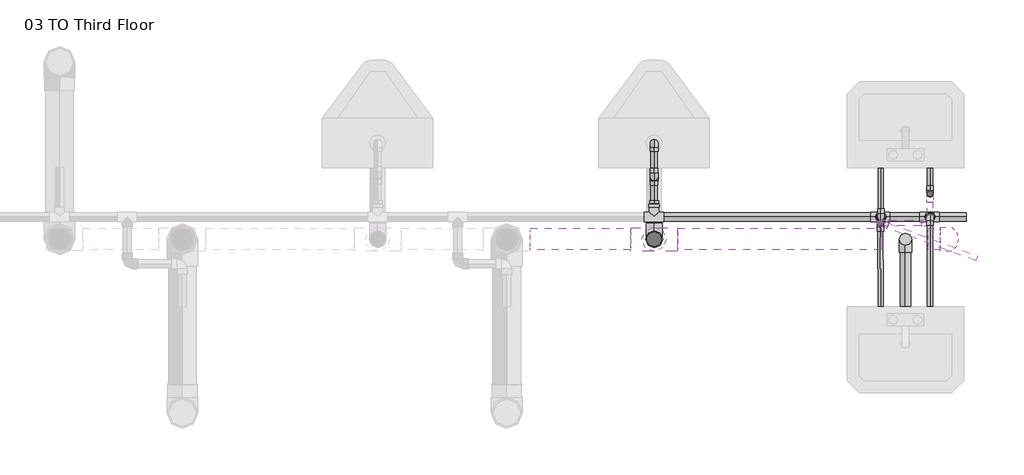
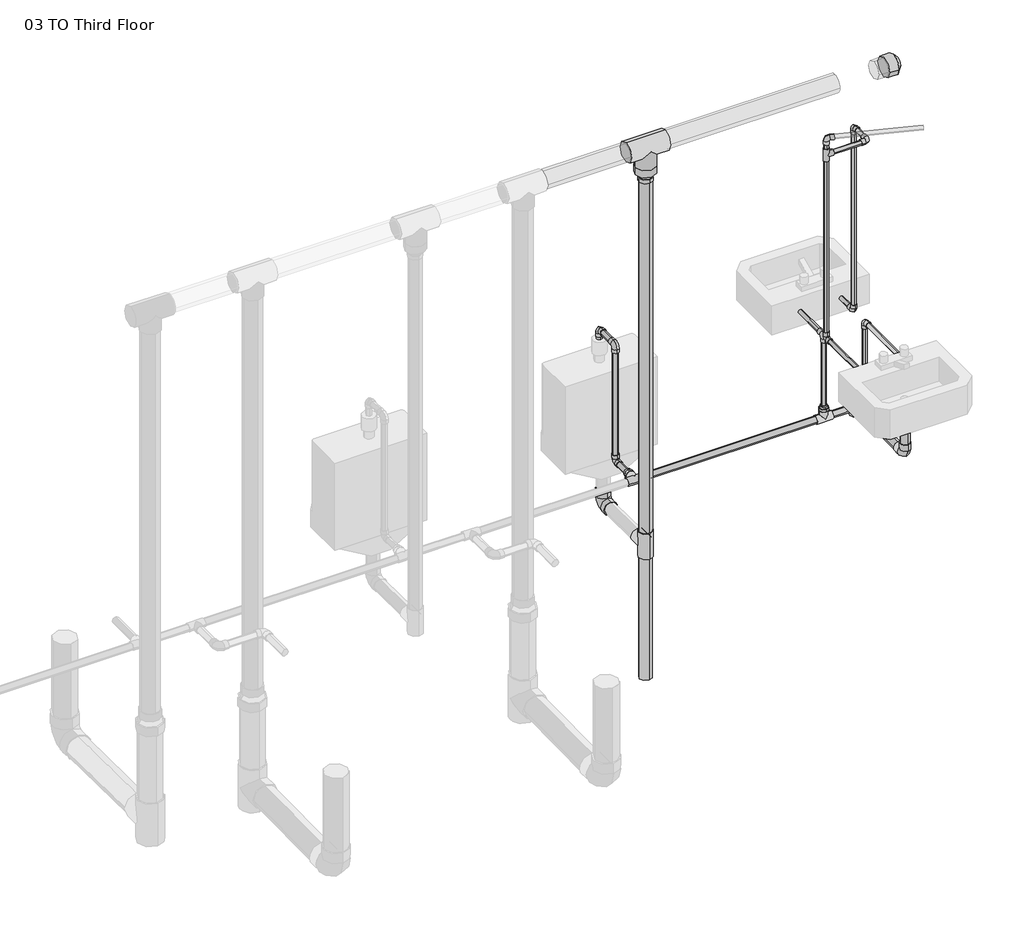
# One storey, part 3 of 3: 26 pipe segments, 24 pipe fittings.
"""IFC4 building model written with IfcOpenShell, lengths in millimetres."""

from ifc_helpers import new_model, si_unit, point, frame, frame_2d, origin, place, context, project, spatial, circle_curve, trimmed, segment, composite_curve, outline, extrude, transform, mapped, element, save
from components import cap_pvc_sch_40_standard_56ae4cf4, elbow_pvc_sch_40_standard_49eec4e1, elbow_pvc_sch_40_standard_39e3f0c3, elbow_pvc_sch_40_standard_69e4ce0e, elbow_pvc_sch_40_standard_b266ab3f, reducer_pvc_sch_40_dwv_standard_464ee0c2, reducer_pvc_sch_40_dwv_standard_62d2b996, reducer_pvc_sch_40_dwv_standard_36281592, reducer_pvc_sch_40_dwv_standard_0d64fc83, tee_pvc_sch_40_standard_2c251a49, tee_pvc_sch_40_standard_b08d6211, tee_pvc_sch_40_standard_08ff6011, tee_pvc_sch_40_standard_9261842d, tee_pvc_sch_40_standard_72b35c3b

model = new_model("IFC4")

# Units and contexts
model_context = context("Model", 3, world=origin())
ifc_project = project(units=[si_unit("LENGTHUNIT", "METRE", prefix="MILLI")], contexts=[model_context])

# Site, building, storey
site = spatial("IfcSite", under=ifc_project)
building = spatial("IfcBuilding", under=site)
storey = spatial("IfcBuildingStorey", under=building, Name="03 TO Third Floor", Elevation=9144.0)

# Pipe fittings
placement = place(None, origin())
cap_pvc_sch_40_standard_shape = cap_pvc_sch_40_standard_56ae4cf4(model_context)
element("IfcPipeFitting", 1, ObjectType="Cap - PVC - Sch 40 : Standard", at=placement, inside=storey, context=model_context, shape_type="MappedRepresentation", body=[
    mapped(cap_pvc_sch_40_standard_shape, transform((-12487.0540617, -4439.7857603, 11307.7752), x_axis=(1.0, 0.0, 0.0), y_axis=(0.0, 1.0, 0.0), z_axis=(0.0, 0.0, 1.0))),
])
elbow_pvc_sch_40_standard_shape = elbow_pvc_sch_40_standard_49eec4e1(model_context)
element("IfcPipeFitting", 2, ObjectType="Elbow - PVC - Sch 40 : Standard", at=placement, inside=storey, context=model_context, shape_type="MappedRepresentation", body=[
    mapped(elbow_pvc_sch_40_standard_shape, transform((-12528.8062469, -4252.3203325, 9931.4), x_axis=(0.0, -1.0, 0.0), y_axis=(0.0, 0.0, 1.0), z_axis=(-1.0, 0.0, 0.0))),
])
element("IfcPipeFitting", 3, ObjectType="Elbow - PVC - Sch 40 : Standard", at=placement, inside=storey, context=model_context, shape_type="MappedRepresentation", body=[
    mapped(elbow_pvc_sch_40_standard_shape, transform((-12734.0582321, -4372.4239147, 9931.4), x_axis=(0.0, 0.0, -1.0), y_axis=(0.0, -1.0, 0.0), z_axis=(-1.0, 0.0, 0.0))),
])
element("IfcPipeFitting", 4, ObjectType="Elbow - PVC - Sch 40 : Standard", at=placement, inside=storey, context=model_context, shape_type="MappedRepresentation", body=[
    mapped(elbow_pvc_sch_40_standard_shape, transform((-12528.8062469, -4372.4239147, 10896.1219792), x_axis=(1.0, 0.0, 0.0), y_axis=(0.0, 1.0, 0.0), z_axis=(0.0, 0.0, 1.0))),
])
element("IfcPipeFitting", 5, ObjectType="Elbow - PVC - Sch 40 : Standard", at=placement, inside=storey, context=model_context, shape_type="MappedRepresentation", body=[
    mapped(elbow_pvc_sch_40_standard_shape, transform((-12528.8062469, -4252.3203325, 10896.1219792), x_axis=(0.0, 0.0, 1.0), y_axis=(0.0, -1.0, 0.0), z_axis=(1.0, 0.0, 0.0))),
])
element("IfcPipeFitting", 6, ObjectType="Elbow - PVC - Sch 40 : Standard", at=placement, inside=storey, context=model_context, shape_type="MappedRepresentation", body=[
    mapped(elbow_pvc_sch_40_standard_shape, transform((-12732.0062469, -4347.5703325, 9931.4), x_axis=(0.0, -1.0, 0.0), y_axis=(0.0, 0.0, -1.0), z_axis=(1.0, 0.0, 0.0))),
])
element("IfcPipeFitting", 7, ObjectType="Elbow - PVC - Sch 40 : Standard", at=placement, inside=storey, context=model_context, shape_type="MappedRepresentation", body=[
    mapped(elbow_pvc_sch_40_standard_shape, transform((-12528.8062469, -4347.5703325, 9931.4), x_axis=(0.0, 1.0, 0.0), y_axis=(0.0, 0.0, -1.0), z_axis=(-1.0, 0.0, 0.0))),
])
element("IfcPipeFitting", 8, ObjectType="Elbow - PVC - Sch 40 : Standard", at=placement, inside=storey, context=model_context, shape_type="MappedRepresentation", body=[
    mapped(elbow_pvc_sch_40_standard_shape, transform((-12734.0582321, -4372.4239147, 10983.131328), x_axis=(0.0, 0.0, 1.0), y_axis=(0.9389057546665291, -0.3441743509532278, 0.0), z_axis=(0.3441743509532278, 0.9389057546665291, 0.0))),
])
elbow_pvc_sch_40_standard_2_shape = elbow_pvc_sch_40_standard_39e3f0c3(model_context)
element("IfcPipeFitting", 9, ObjectType="Elbow - PVC - Sch 40 : Standard", at=placement, inside=storey, context=model_context, shape_type="MappedRepresentation", body=[
    mapped(elbow_pvc_sch_40_standard_2_shape, transform((-13669.7542617, -4075.7109575, 9221.7875), x_axis=(0.0, 0.0, -1.0), y_axis=(0.0, -1.0, 0.0), z_axis=(-1.0, 0.0, 0.0))),
])
elbow_pvc_sch_40_standard_3_shape = elbow_pvc_sch_40_standard_69e4ce0e(model_context)
element("IfcPipeFitting", 10, ObjectType="Elbow - PVC - Sch 40 : Standard", at=placement, inside=storey, context=model_context, shape_type="MappedRepresentation", body=[
    mapped(elbow_pvc_sch_40_standard_3_shape, transform((-12630.4062469, -4871.4453325, 9591.675), x_axis=(0.0, 0.0, -1.0), y_axis=(0.0, 1.0, 0.0), z_axis=(1.0, 0.0, 0.0))),
])
elbow_pvc_sch_40_standard_4_shape = elbow_pvc_sch_40_standard_b266ab3f(model_context)
element("IfcPipeFitting", 11, ObjectType="Elbow - PVC - Sch 40 : Standard", at=placement, inside=storey, context=model_context, shape_type="MappedRepresentation", body=[
    mapped(elbow_pvc_sch_40_standard_4_shape, transform((-13669.7542617, -4041.5797075, 10106.81875), x_axis=(0.0, 0.0, 1.0), y_axis=(0.0, -1.0, 0.0), z_axis=(1.0, 0.0, 0.0))),
])
element("IfcPipeFitting", 12, ObjectType="Elbow - PVC - Sch 40 : Standard", at=placement, inside=storey, context=model_context, shape_type="MappedRepresentation", body=[
    mapped(elbow_pvc_sch_40_standard_4_shape, transform((-13669.7542617, -4181.2797075, 10106.81875), x_axis=(0.0, -1.0, 0.0), y_axis=(0.0, 0.0, -1.0), z_axis=(1.0, 0.0, 0.0))),
])
element("IfcPipeFitting", 13, ObjectType="Elbow - PVC - Sch 40 : Standard", at=placement, inside=storey, context=model_context, shape_type="MappedRepresentation", body=[
    mapped(elbow_pvc_sch_40_standard_4_shape, transform((-13669.7542617, -4181.2797075, 9499.6), x_axis=(0.0, 0.0, -1.0), y_axis=(0.0, -1.0, 0.0), z_axis=(-1.0, 0.0, 0.0))),
])
reducer_pvc_sch_40_dwv_standard_shape = reducer_pvc_sch_40_dwv_standard_464ee0c2(model_context)
element("IfcPipeFitting", 14, ObjectType="Reducer - PVC - Sch 40 - DWV : Standard", at=placement, inside=storey, context=model_context, shape_type="MappedRepresentation", body=[
    mapped(reducer_pvc_sch_40_dwv_standard_shape, transform((-13669.7542617, -4439.7857603, 11210.925), x_axis=(0.0, 0.0, -1.0), y_axis=(-1.0, 0.0, 0.0), z_axis=(0.0, 1.0, 0.0))),
])
reducer_pvc_sch_40_dwv_standard_2_shape = reducer_pvc_sch_40_dwv_standard_62d2b996(model_context)
element("IfcPipeFitting", 15, ObjectType="Reducer - PVC - Sch 40 - DWV : Standard", at=placement, inside=storey, context=model_context, shape_type="MappedRepresentation", body=[
    mapped(reducer_pvc_sch_40_dwv_standard_2_shape, transform((-12732.0062469, -4347.5703325, 9539.3002), x_axis=(0.0, 0.0, 1.0), y_axis=(0.0, 1.0, 0.0), z_axis=(-1.0, 0.0, 0.0))),
])
reducer_pvc_sch_40_dwv_standard_3_shape = reducer_pvc_sch_40_dwv_standard_36281592(model_context)
element("IfcPipeFitting", 16, ObjectType="Reducer - PVC - Sch 40 - DWV : Standard", at=placement, inside=storey, context=model_context, shape_type="MappedRepresentation", body=[
    mapped(reducer_pvc_sch_40_dwv_standard_3_shape, transform((-12528.8062469, -4347.5703325, 9539.3002), x_axis=(0.0, 0.0, 1.0), y_axis=(0.0, -1.0, 0.0), z_axis=(1.0, 0.0, 0.0))),
])
reducer_pvc_sch_40_dwv_standard_4_shape = reducer_pvc_sch_40_dwv_standard_0d64fc83(model_context)
element("IfcPipeFitting", 17, ObjectType="Reducer - PVC - Sch 40 - DWV : Standard", at=placement, inside=storey, context=model_context, shape_type="MappedRepresentation", body=[
    mapped(reducer_pvc_sch_40_dwv_standard_4_shape, transform((-13669.7542617, -4307.8701325, 9499.6), x_axis=(0.0, 1.0, 0.0), y_axis=(-1.0, 0.0, 0.0), z_axis=(0.0, 0.0, 1.0))),
])
tee_pvc_sch_40_standard_shape = tee_pvc_sch_40_standard_2c251a49(model_context)
element("IfcPipeFitting", 18, ObjectType="Tee - PVC - Sch 40 : Standard", at=placement, inside=storey, context=model_context, shape_type="MappedRepresentation", body=[
    mapped(tee_pvc_sch_40_standard_shape, transform((-12734.0582321, -4372.4239147, 10896.1219792), x_axis=(0.0, 0.0, -1.0), y_axis=(-1.0, 0.0, 0.0), z_axis=(0.0, 1.0, 0.0))),
])
tee_pvc_sch_40_standard_2_shape = tee_pvc_sch_40_standard_b08d6211(model_context)
element("IfcPipeFitting", 19, ObjectType="Tee - PVC - Sch 40 : Standard", at=placement, inside=storey, context=model_context, shape_type="MappedRepresentation", body=[
    mapped(tee_pvc_sch_40_standard_2_shape, transform((-13669.7542617, -4439.7857603, 9225.5799459), x_axis=(0.0, 0.0, 1.0), y_axis=(0.0, -1.0, 0.0), z_axis=(1.0, 0.0, 0.0))),
])
tee_pvc_sch_40_standard_3_shape = tee_pvc_sch_40_standard_08ff6011(model_context)
element("IfcPipeFitting", 20, ObjectType="Tee - PVC - Sch 40 : Standard", at=placement, inside=storey, context=model_context, shape_type="MappedRepresentation", body=[
    mapped(tee_pvc_sch_40_standard_3_shape, transform((-12630.4062469, -4439.7857603, 9591.675), x_axis=(0.0, 0.0, 1.0), y_axis=(0.0, 1.0, 0.0), z_axis=(-1.0, 0.0, 0.0))),
])
tee_pvc_sch_40_standard_4_shape = tee_pvc_sch_40_standard_9261842d(model_context)
element("IfcPipeFitting", 21, ObjectType="Tee - PVC - Sch 40 : Standard", at=placement, inside=storey, context=model_context, shape_type="MappedRepresentation", body=[
    mapped(tee_pvc_sch_40_standard_4_shape, transform((-13669.7542617, -4439.7857603, 11307.7752), x_axis=(-1.0, 0.0, 0.0), y_axis=(0.0, 0.0, 1.0), z_axis=(0.0, 1.0, 0.0))),
])
tee_pvc_sch_40_standard_5_shape = tee_pvc_sch_40_standard_72b35c3b(model_context)
element("IfcPipeFitting", 22, ObjectType="Tee - PVC - Sch 40 : Standard", at=placement, inside=storey, context=model_context, shape_type="MappedRepresentation", body=[
    mapped(tee_pvc_sch_40_standard_5_shape, transform((-12734.2299907, -4347.5703325, 9499.6), x_axis=(-1.0, 0.0, 0.0), y_axis=(0.0, 0.0, -1.0), z_axis=(0.0, -1.0, 0.0))),
])
element("IfcPipeFitting", 23, ObjectType="Tee - PVC - Sch 40 : Standard", at=placement, inside=storey, context=model_context, shape_type="MappedRepresentation", body=[
    mapped(tee_pvc_sch_40_standard_5_shape, transform((-12531.0299907, -4347.5703325, 9499.6), x_axis=(-1.0, 0.0, 0.0), y_axis=(0.0, 0.0, -1.0), z_axis=(0.0, -1.0, 0.0))),
])
element("IfcPipeFitting", 24, ObjectType="Tee - PVC - Sch 40 : Standard", at=placement, inside=storey, context=model_context, shape_type="MappedRepresentation", body=[
    mapped(tee_pvc_sch_40_standard_5_shape, transform((-13669.7542617, -4347.5703325, 9499.6), x_axis=(-1.0, 0.0, 0.0), y_axis=(0.0, -1.0, 0.0), z_axis=(0.0, 0.0, 1.0))),
])

# Pipe segments
element("IfcPipeSegment", 25, ObjectType="Standard", at=placement, inside=storey, context=model_context, shape_type="SweptSolid", body=[
    extrude(outline(composite_curve([segment(trimmed(circle_curve(frame_2d((-13669.7542617, -4439.7857603)), 30.1625), [point((-13699.9167617, -4439.7857603))], [point((-13669.7542617, -4409.6232603))], False, "CARTESIAN"), True, "CONTINUOUS"), segment(trimmed(circle_curve(frame_2d((-13669.7542617, -4439.7857603)), 30.1625), [point((-13669.7542617, -4409.6232603))], [point((-13639.5917617, -4439.7857603))], False, "CARTESIAN"), True, "CONTINUOUS"), segment(trimmed(circle_curve(frame_2d((-13669.7542617, -4439.7857603)), 30.1625), [point((-13639.5917617, -4439.7857603))], [point((-13669.7542617, -4469.9482603))], False, "CARTESIAN"), True, "CONTINUOUS"), segment(trimmed(circle_curve(frame_2d((-13669.7542617, -4439.7857603)), 30.1625), [point((-13669.7542617, -4469.9482603))], [point((-13699.9167617, -4439.7857603))], False, "CARTESIAN"), True, "CONTINUOUS")], self_intersect=False)), frame((0.0, 0.0, 8521.4306513), z_axis=(0.0, 0.0, 1.0), x_axis=(1.0, 0.0, 0.0)), (0.0, 0.0, 1.0), 637.4742946),
])
element("IfcPipeSegment", 26, ObjectType="Standard", at=placement, inside=storey, context=model_context, shape_type="SweptSolid", body=[
    extrude(outline(composite_curve([segment(trimmed(circle_curve(frame_2d((-12630.4062469, -4871.4453325)), 21.034375), [point((-12609.3718719, -4871.4453325))], [point((-12630.4062469, -4892.4797075))], False, "CARTESIAN"), True, "CONTINUOUS"), segment(trimmed(circle_curve(frame_2d((-12630.4062469, -4871.4453325)), 21.034375), [point((-12630.4062469, -4892.4797075))], [point((-12651.4406219, -4871.4453325))], False, "CARTESIAN"), True, "CONTINUOUS"), segment(trimmed(circle_curve(frame_2d((-12630.4062469, -4871.4453325)), 21.034375), [point((-12651.4406219, -4871.4453325))], [point((-12630.4062469, -4850.4109575))], False, "CARTESIAN"), True, "CONTINUOUS"), segment(trimmed(circle_curve(frame_2d((-12630.4062469, -4871.4453325)), 21.034375), [point((-12630.4062469, -4850.4109575))], [point((-12609.3718719, -4871.4453325))], False, "CARTESIAN"), True, "CONTINUOUS")], self_intersect=False)), frame((0.0, 0.0, 9649.61875), z_axis=(0.0, 0.0, 1.0), x_axis=(1.0, 0.0, 0.0)), (0.0, 0.0, 1.0), 205.58125),
])
element("IfcPipeSegment", 27, ObjectType="Standard", at=placement, inside=storey, context=model_context, shape_type="SweptSolid", body=[
    extrude(outline(composite_curve([segment(trimmed(circle_curve(frame_2d((-13669.7542617, -4439.7857603)), 30.1625), [point((-13639.5917617, -4439.7857603))], [point((-13669.7542617, -4469.9482603))], False, "CARTESIAN"), True, "CONTINUOUS"), segment(trimmed(circle_curve(frame_2d((-13669.7542617, -4439.7857603)), 30.1625), [point((-13669.7542617, -4469.9482603))], [point((-13699.9167617, -4439.7857603))], False, "CARTESIAN"), True, "CONTINUOUS"), segment(trimmed(circle_curve(frame_2d((-13669.7542617, -4439.7857603)), 30.1625), [point((-13699.9167617, -4439.7857603))], [point((-13669.7542617, -4409.6232603))], False, "CARTESIAN"), True, "CONTINUOUS"), segment(trimmed(circle_curve(frame_2d((-13669.7542617, -4439.7857603)), 30.1625), [point((-13669.7542617, -4409.6232603))], [point((-13639.5917617, -4439.7857603))], False, "CARTESIAN"), True, "CONTINUOUS")], self_intersect=False)), frame((0.0, 0.0, 9292.2549459), z_axis=(0.0, 0.0, 1.0), x_axis=(1.0, 0.0, 0.0)), (0.0, 0.0, 1.0), 1839.2950541),
])
element("IfcPipeSegment", 28, ObjectType="Standard", at=placement, inside=storey, context=model_context, shape_type="SweptSolid", body=[
    extrude(outline(composite_curve([segment(trimmed(circle_curve(frame_2d((9591.675, -12630.4062469)), 21.034375), [point((9591.675, -12651.4406219))], [point((9570.640625, -12630.4062469))], False, "CARTESIAN"), True, "CONTINUOUS"), segment(trimmed(circle_curve(frame_2d((9591.675, -12630.4062469)), 21.034375), [point((9570.640625, -12630.4062469))], [point((9591.675, -12609.3718719))], False, "CARTESIAN"), True, "CONTINUOUS"), segment(trimmed(circle_curve(frame_2d((9591.675, -12630.4062469)), 21.034375), [point((9591.675, -12609.3718719))], [point((9612.709375, -12630.4062469))], False, "CARTESIAN"), True, "CONTINUOUS"), segment(trimmed(circle_curve(frame_2d((9591.675, -12630.4062469)), 21.034375), [point((9612.709375, -12630.4062469))], [point((9591.675, -12651.4406219))], False, "CARTESIAN"), True, "CONTINUOUS")], self_intersect=False)), frame((0.0, -4813.5015825, 0.0), z_axis=(0.0, 1.0, 0.0), x_axis=(0.0, 0.0, 1.0)), (0.0, 0.0, 1.0), 319.7408222),
])
element("IfcPipeSegment", 29, ObjectType="Standard", at=placement, inside=storey, context=model_context, shape_type="SweptSolid", body=[
    extrude(outline(composite_curve([segment(trimmed(circle_curve(frame_2d((-4439.7857603, 11307.7752)), 44.45), [point((-4484.2357603, 11307.7752))], [point((-4439.7857603, 11352.2252))], False, "CARTESIAN"), True, "CONTINUOUS"), segment(trimmed(circle_curve(frame_2d((-4439.7857603, 11307.7752)), 44.45), [point((-4439.7857603, 11352.2252))], [point((-4395.3357603, 11307.7752))], False, "CARTESIAN"), True, "CONTINUOUS"), segment(trimmed(circle_curve(frame_2d((-4439.7857603, 11307.7752)), 44.45), [point((-4395.3357603, 11307.7752))], [point((-4439.7857603, 11263.3252))], False, "CARTESIAN"), True, "CONTINUOUS"), segment(trimmed(circle_curve(frame_2d((-4439.7857603, 11307.7752)), 44.45), [point((-4439.7857603, 11263.3252))], [point((-4484.2357603, 11307.7752))], False, "CARTESIAN"), True, "CONTINUOUS")], self_intersect=False)), frame((-12535.7797907, 0.0, 0.0), z_axis=(1.0, 0.0, 0.0), x_axis=(0.0, 1.0, 0.0)), (0.0, 0.0, 1.0), 48.725729),
])
element("IfcPipeSegment", 30, ObjectType="Standard", at=placement, inside=storey, context=model_context, shape_type="SweptSolid", body=[
    extrude(outline(composite_curve([segment(trimmed(circle_curve(frame_2d((-4439.7857603, 11307.7752)), 44.45), [point((-4484.2357603, 11307.7752))], [point((-4439.7857603, 11352.2252))], False, "CARTESIAN"), True, "CONTINUOUS"), segment(trimmed(circle_curve(frame_2d((-4439.7857603, 11307.7752)), 44.45), [point((-4439.7857603, 11352.2252))], [point((-4395.3357603, 11307.7752))], False, "CARTESIAN"), True, "CONTINUOUS"), segment(trimmed(circle_curve(frame_2d((-4439.7857603, 11307.7752)), 44.45), [point((-4395.3357603, 11307.7752))], [point((-4439.7857603, 11263.3252))], False, "CARTESIAN"), True, "CONTINUOUS"), segment(trimmed(circle_curve(frame_2d((-4439.7857603, 11307.7752)), 44.45), [point((-4439.7857603, 11263.3252))], [point((-4484.2357603, 11307.7752))], False, "CARTESIAN"), True, "CONTINUOUS")], self_intersect=False)), frame((-14181.8760962, 0.0, 0.0), z_axis=(1.0, 0.0, 0.0), x_axis=(0.0, 1.0, 0.0)), (0.0, 0.0, 1.0), 415.2716345),
])
element("IfcPipeSegment", 31, ObjectType="Standard", at=placement, inside=storey, context=model_context, shape_type="SweptSolid", body=[
    extrude(outline(composite_curve([segment(trimmed(circle_curve(frame_2d((-4439.7857603, 11307.7752)), 44.45), [point((-4484.2357603, 11307.7752))], [point((-4439.7857603, 11352.2252))], False, "CARTESIAN"), True, "CONTINUOUS"), segment(trimmed(circle_curve(frame_2d((-4439.7857603, 11307.7752)), 44.45), [point((-4439.7857603, 11352.2252))], [point((-4395.3357603, 11307.7752))], False, "CARTESIAN"), True, "CONTINUOUS"), segment(trimmed(circle_curve(frame_2d((-4439.7857603, 11307.7752)), 44.45), [point((-4395.3357603, 11307.7752))], [point((-4439.7857603, 11263.3252))], False, "CARTESIAN"), True, "CONTINUOUS"), segment(trimmed(circle_curve(frame_2d((-4439.7857603, 11307.7752)), 44.45), [point((-4439.7857603, 11263.3252))], [point((-4484.2357603, 11307.7752))], False, "CARTESIAN"), True, "CONTINUOUS")], self_intersect=False)), frame((-13572.9040617, 0.0, 0.0), z_axis=(1.0, 0.0, 0.0), x_axis=(0.0, 1.0, 0.0)), (0.0, 0.0, 1.0), 843.423871),
])
element("IfcPipeSegment", 32, ObjectType="Standard", at=placement, inside=storey, context=model_context, shape_type="SweptSolid", body=[
    extrude(outline(composite_curve([segment(trimmed(circle_curve(frame_2d((9931.4, -12528.8062469)), 10.715625), [point((9931.4, -12539.5218719))], [point((9920.684375, -12528.8062469))], False, "CARTESIAN"), True, "CONTINUOUS"), segment(trimmed(circle_curve(frame_2d((9931.4, -12528.8062469)), 10.715625), [point((9920.684375, -12528.8062469))], [point((9931.4, -12518.0906219))], False, "CARTESIAN"), True, "CONTINUOUS"), segment(trimmed(circle_curve(frame_2d((9931.4, -12528.8062469)), 10.715625), [point((9931.4, -12518.0906219))], [point((9942.115625, -12528.8062469))], False, "CARTESIAN"), True, "CONTINUOUS"), segment(trimmed(circle_curve(frame_2d((9931.4, -12528.8062469)), 10.715625), [point((9942.115625, -12528.8062469))], [point((9931.4, -12539.5218719))], False, "CARTESIAN"), True, "CONTINUOUS")], self_intersect=False)), frame((0.0, -4218.5827825, 0.0), z_axis=(0.0, 1.0, 0.0), x_axis=(0.0, 0.0, 1.0)), (0.0, 0.0, 1.0), 74.21245),
])
element("IfcPipeSegment", 33, ObjectType="Standard", at=placement, inside=storey, context=model_context, shape_type="SweptSolid", body=[
    extrude(outline(composite_curve([segment(trimmed(circle_curve(frame_2d((-12528.8062469, -4252.3203325)), 10.715625), [point((-12539.5218719, -4252.3203325))], [point((-12528.8062469, -4241.6047075))], False, "CARTESIAN"), True, "CONTINUOUS"), segment(trimmed(circle_curve(frame_2d((-12528.8062469, -4252.3203325)), 10.715625), [point((-12528.8062469, -4241.6047075))], [point((-12518.0906219, -4252.3203325))], False, "CARTESIAN"), True, "CONTINUOUS"), segment(trimmed(circle_curve(frame_2d((-12528.8062469, -4252.3203325)), 10.715625), [point((-12518.0906219, -4252.3203325))], [point((-12528.8062469, -4263.0359575))], False, "CARTESIAN"), True, "CONTINUOUS"), segment(trimmed(circle_curve(frame_2d((-12528.8062469, -4252.3203325)), 10.715625), [point((-12528.8062469, -4263.0359575))], [point((-12539.5218719, -4252.3203325))], False, "CARTESIAN"), True, "CONTINUOUS")], self_intersect=False)), frame((0.0, 0.0, 9965.13755), z_axis=(0.0, 0.0, 1.0), x_axis=(1.0, 0.0, 0.0)), (0.0, 0.0, 1.0), 897.2468792),
])
element("IfcPipeSegment", 34, ObjectType="Standard", at=placement, inside=storey, context=model_context, shape_type="SweptSolid", body=[
    extrude(outline(composite_curve([segment(trimmed(circle_curve(frame_2d((0.0, -10.715625)), 10.715625), [point((-10.7156249, -10.715625))], [point((0.0, 0.0))], False, "CARTESIAN"), True, "CONTINUOUS"), segment(trimmed(circle_curve(frame_2d((0.0, -10.715625)), 10.715625), [point((0.0, 0.0))], [point((10.715625, -10.715625))], False, "CARTESIAN"), True, "CONTINUOUS"), segment(trimmed(circle_curve(frame_2d((0.0, -10.715625)), 10.715625), [point((10.715625, -10.715625))], [point((0.0, -21.43125))], False, "CARTESIAN"), True, "CONTINUOUS"), segment(trimmed(circle_curve(frame_2d((0.0, -10.715625)), 10.715625), [point((0.0, -21.43125))], [point((-10.7156249, -10.715625))], False, "CARTESIAN"), True, "CONTINUOUS")], self_intersect=False)), frame((-12732.0062469, -4719.0453325, 9920.684375), z_axis=(-0.006558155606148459, 0.9999784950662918, 0.0), x_axis=(0.9999784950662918, 0.006558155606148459, 0.0)), (0.0, 0.0, 1.0), 312.8905966),
])
element("IfcPipeSegment", 35, ObjectType="Standard", at=placement, inside=storey, context=model_context, shape_type="SweptSolid", body=[
    extrude(outline(composite_curve([segment(trimmed(circle_curve(frame_2d((-12734.0582321, -4372.4239147)), 10.715625), [point((-12744.7738571, -4372.4239147))], [point((-12734.0582321, -4361.7082897))], False, "CARTESIAN"), True, "CONTINUOUS"), segment(trimmed(circle_curve(frame_2d((-12734.0582321, -4372.4239147)), 10.715625), [point((-12734.0582321, -4361.7082897))], [point((-12723.3426071, -4372.4239147))], False, "CARTESIAN"), True, "CONTINUOUS"), segment(trimmed(circle_curve(frame_2d((-12734.0582321, -4372.4239147)), 10.715625), [point((-12723.3426071, -4372.4239147))], [point((-12734.0582321, -4383.1395397))], False, "CARTESIAN"), True, "CONTINUOUS"), segment(trimmed(circle_curve(frame_2d((-12734.0582321, -4372.4239147)), 10.715625), [point((-12734.0582321, -4383.1395397))], [point((-12744.7738571, -4372.4239147))], False, "CARTESIAN"), True, "CONTINUOUS")], self_intersect=False)), frame((0.0, 0.0, 10927.8719792), z_axis=(0.0, 0.0, 1.0), x_axis=(1.0, 0.0, 0.0)), (0.0, 0.0, 1.0), 21.5217988),
])
element("IfcPipeSegment", 36, ObjectType="Standard", at=placement, inside=storey, context=model_context, shape_type="SweptSolid", body=[
    extrude(outline(composite_curve([segment(trimmed(circle_curve(frame_2d((0.0, -10.715625)), 10.715625), [point((-10.715625, -10.715625))], [point((0.0, 0.0))], False, "CARTESIAN"), True, "CONTINUOUS"), segment(trimmed(circle_curve(frame_2d((0.0, -10.715625)), 10.715625), [point((0.0, 0.0))], [point((10.715625, -10.715625))], False, "CARTESIAN"), True, "CONTINUOUS"), segment(trimmed(circle_curve(frame_2d((0.0, -10.715625)), 10.715625), [point((10.715625, -10.715625))], [point((0.0, -21.43125))], False, "CARTESIAN"), True, "CONTINUOUS"), segment(trimmed(circle_curve(frame_2d((0.0, -10.715625)), 10.715625), [point((0.0, -21.43125))], [point((-10.715625, -10.715625))], False, "CARTESIAN"), True, "CONTINUOUS")], self_intersect=False)), frame((-12336.3787961, -4518.2011251, 10972.415703), z_axis=(-0.9389057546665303, 0.34417435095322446, 0.0), x_axis=(0.34417435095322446, 0.9389057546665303, 0.0)), (0.0, 0.0, 1.0), 389.8187378),
])
element("IfcPipeSegment", 37, ObjectType="Standard", at=placement, inside=storey, context=model_context, shape_type="SweptSolid", body=[
    extrude(outline(composite_curve([segment(trimmed(circle_curve(frame_2d((10896.1219792, -12528.8062469)), 10.715625), [point((10896.1219792, -12518.0906219))], [point((10906.8376042, -12528.8062469))], False, "CARTESIAN"), True, "CONTINUOUS"), segment(trimmed(circle_curve(frame_2d((10896.1219792, -12528.8062469)), 10.715625), [point((10906.8376042, -12528.8062469))], [point((10896.1219792, -12539.5218719))], False, "CARTESIAN"), True, "CONTINUOUS"), segment(trimmed(circle_curve(frame_2d((10896.1219792, -12528.8062469)), 10.715625), [point((10896.1219792, -12539.5218719))], [point((10885.4063542, -12528.8062469))], False, "CARTESIAN"), True, "CONTINUOUS"), segment(trimmed(circle_curve(frame_2d((10896.1219792, -12528.8062469)), 10.715625), [point((10885.4063542, -12528.8062469))], [point((10896.1219792, -12518.0906219))], False, "CARTESIAN"), True, "CONTINUOUS")], self_intersect=False)), frame((0.0, -4338.6863647, 0.0), z_axis=(0.0, 1.0, 0.0), x_axis=(0.0, 0.0, 1.0)), (0.0, 0.0, 1.0), 52.6284821),
])
element("IfcPipeSegment", 38, ObjectType="Standard", at=placement, inside=storey, context=model_context, shape_type="SweptSolid", body=[
    extrude(outline(composite_curve([segment(trimmed(circle_curve(frame_2d((-4372.4239147, 10896.1219792)), 10.715625), [point((-4383.1395397, 10896.1219792))], [point((-4372.4239147, 10906.8376042))], False, "CARTESIAN"), True, "CONTINUOUS"), segment(trimmed(circle_curve(frame_2d((-4372.4239147, 10896.1219792)), 10.715625), [point((-4372.4239147, 10906.8376042))], [point((-4361.7082897, 10896.1219792))], False, "CARTESIAN"), True, "CONTINUOUS"), segment(trimmed(circle_curve(frame_2d((-4372.4239147, 10896.1219792)), 10.715625), [point((-4361.7082897, 10896.1219792))], [point((-4372.4239147, 10885.4063542))], False, "CARTESIAN"), True, "CONTINUOUS"), segment(trimmed(circle_curve(frame_2d((-4372.4239147, 10896.1219792)), 10.715625), [point((-4372.4239147, 10885.4063542))], [point((-4383.1395397, 10896.1219792))], False, "CARTESIAN"), True, "CONTINUOUS")], self_intersect=False)), frame((-12702.3082321, 0.0, 0.0), z_axis=(1.0, 0.0, 0.0), x_axis=(0.0, 1.0, 0.0)), (0.0, 0.0, 1.0), 139.7644352),
])
element("IfcPipeSegment", 39, ObjectType="Standard", at=placement, inside=storey, context=model_context, shape_type="SweptSolid", body=[
    extrude(outline(composite_curve([segment(trimmed(circle_curve(frame_2d((-12734.0582321, -4372.4239147)), 10.715625), [point((-12744.7738571, -4372.4239147))], [point((-12734.0582321, -4361.7082897))], False, "CARTESIAN"), True, "CONTINUOUS"), segment(trimmed(circle_curve(frame_2d((-12734.0582321, -4372.4239147)), 10.715625), [point((-12734.0582321, -4361.7082897))], [point((-12723.3426071, -4372.4239147))], False, "CARTESIAN"), True, "CONTINUOUS"), segment(trimmed(circle_curve(frame_2d((-12734.0582321, -4372.4239147)), 10.715625), [point((-12723.3426071, -4372.4239147))], [point((-12734.0582321, -4383.1395397))], False, "CARTESIAN"), True, "CONTINUOUS"), segment(trimmed(circle_curve(frame_2d((-12734.0582321, -4372.4239147)), 10.715625), [point((-12734.0582321, -4383.1395397))], [point((-12744.7738571, -4372.4239147))], False, "CARTESIAN"), True, "CONTINUOUS")], self_intersect=False)), frame((0.0, 0.0, 9965.13755), z_axis=(0.0, 0.0, 1.0), x_axis=(1.0, 0.0, 0.0)), (0.0, 0.0, 1.0), 899.2344292),
])
element("IfcPipeSegment", 40, ObjectType="Standard", at=placement, inside=storey, context=model_context, shape_type="SweptSolid", body=[
    extrude(outline(composite_curve([segment(trimmed(circle_curve(frame_2d((9931.4, -12528.8062469)), 10.715625), [point((9931.4, -12518.0906219))], [point((9942.115625, -12528.8062469))], False, "CARTESIAN"), True, "CONTINUOUS"), segment(trimmed(circle_curve(frame_2d((9931.4, -12528.8062469)), 10.715625), [point((9942.115625, -12528.8062469))], [point((9931.4, -12539.5218719))], False, "CARTESIAN"), True, "CONTINUOUS"), segment(trimmed(circle_curve(frame_2d((9931.4, -12528.8062469)), 10.715625), [point((9931.4, -12539.5218719))], [point((9920.684375, -12528.8062469))], False, "CARTESIAN"), True, "CONTINUOUS"), segment(trimmed(circle_curve(frame_2d((9931.4, -12528.8062469)), 10.715625), [point((9920.684375, -12528.8062469))], [point((9931.4, -12518.0906219))], False, "CARTESIAN"), True, "CONTINUOUS")], self_intersect=False)), frame((0.0, -4719.0453325, 0.0), z_axis=(0.0, 1.0, 0.0), x_axis=(0.0, 0.0, 1.0)), (0.0, 0.0, 1.0), 337.73745),
])
element("IfcPipeSegment", 41, ObjectType="Standard", at=placement, inside=storey, context=model_context, shape_type="SweptSolid", body=[
    extrude(outline(composite_curve([segment(trimmed(circle_curve(frame_2d((9931.4, -12732.0062469)), 10.715625), [point((9931.4, -12742.7218719))], [point((9920.684375, -12732.0062469))], False, "CARTESIAN"), True, "CONTINUOUS"), segment(trimmed(circle_curve(frame_2d((9931.4, -12732.0062469)), 10.715625), [point((9920.684375, -12732.0062469))], [point((9931.4, -12721.2906219))], False, "CARTESIAN"), True, "CONTINUOUS"), segment(trimmed(circle_curve(frame_2d((9931.4, -12732.0062469)), 10.715625), [point((9931.4, -12721.2906219))], [point((9942.115625, -12732.0062469))], False, "CARTESIAN"), True, "CONTINUOUS"), segment(trimmed(circle_curve(frame_2d((9931.4, -12732.0062469)), 10.715625), [point((9942.115625, -12732.0062469))], [point((9931.4, -12742.7218719))], False, "CARTESIAN"), True, "CONTINUOUS")], self_intersect=False)), frame((0.0, -4313.8327825, 0.0), z_axis=(0.0, 1.0, 0.0), x_axis=(0.0, 0.0, 1.0)), (0.0, 0.0, 1.0), 169.46245),
])
element("IfcPipeSegment", 42, ObjectType="Standard", at=placement, inside=storey, context=model_context, shape_type="SweptSolid", body=[
    extrude(outline(composite_curve([segment(trimmed(circle_curve(frame_2d((-12732.0062469, -4347.5703325)), 10.715625), [point((-12721.2906219, -4347.5703325))], [point((-12732.0062469, -4358.2859575))], False, "CARTESIAN"), True, "CONTINUOUS"), segment(trimmed(circle_curve(frame_2d((-12732.0062469, -4347.5703325)), 10.715625), [point((-12732.0062469, -4358.2859575))], [point((-12742.7218719, -4347.5703325))], False, "CARTESIAN"), True, "CONTINUOUS"), segment(trimmed(circle_curve(frame_2d((-12732.0062469, -4347.5703325)), 10.715625), [point((-12742.7218719, -4347.5703325))], [point((-12732.0062469, -4336.8547075))], False, "CARTESIAN"), True, "CONTINUOUS"), segment(trimmed(circle_curve(frame_2d((-12732.0062469, -4347.5703325)), 10.715625), [point((-12732.0062469, -4336.8547075))], [point((-12721.2906219, -4347.5703325))], False, "CARTESIAN"), True, "CONTINUOUS")], self_intersect=False)), frame((0.0, 0.0, 9565.5772937), z_axis=(0.0, 0.0, 1.0), x_axis=(1.0, 0.0, 0.0)), (0.0, 0.0, 1.0), 332.0851563),
])
element("IfcPipeSegment", 43, ObjectType="Standard", at=placement, inside=storey, context=model_context, shape_type="SweptSolid", body=[
    extrude(outline(composite_curve([segment(trimmed(circle_curve(frame_2d((-12528.8062469, -4347.5703325)), 10.715625), [point((-12518.0906219, -4347.5703325))], [point((-12528.8062469, -4358.2859575))], False, "CARTESIAN"), True, "CONTINUOUS"), segment(trimmed(circle_curve(frame_2d((-12528.8062469, -4347.5703325)), 10.715625), [point((-12528.8062469, -4358.2859575))], [point((-12539.5218719, -4347.5703325))], False, "CARTESIAN"), True, "CONTINUOUS"), segment(trimmed(circle_curve(frame_2d((-12528.8062469, -4347.5703325)), 10.715625), [point((-12539.5218719, -4347.5703325))], [point((-12528.8062469, -4336.8547075))], False, "CARTESIAN"), True, "CONTINUOUS"), segment(trimmed(circle_curve(frame_2d((-12528.8062469, -4347.5703325)), 10.715625), [point((-12528.8062469, -4336.8547075))], [point((-12518.0906219, -4347.5703325))], False, "CARTESIAN"), True, "CONTINUOUS")], self_intersect=False)), frame((0.0, 0.0, 9565.5772937), z_axis=(0.0, 0.0, 1.0), x_axis=(1.0, 0.0, 0.0)), (0.0, 0.0, 1.0), 332.0851563),
])
element("IfcPipeSegment", 44, ObjectType="Standard", at=placement, inside=storey, context=model_context, shape_type="SweptSolid", body=[
    extrude(outline(composite_curve([segment(trimmed(circle_curve(frame_2d((-4347.5703325, 9499.6)), 16.66875), [point((-4364.2390825, 9499.6))], [point((-4347.5703325, 9516.26875))], False, "CARTESIAN"), True, "CONTINUOUS"), segment(trimmed(circle_curve(frame_2d((-4347.5703325, 9499.6)), 16.66875), [point((-4347.5703325, 9516.26875))], [point((-4330.9015825, 9499.6))], False, "CARTESIAN"), True, "CONTINUOUS"), segment(trimmed(circle_curve(frame_2d((-4347.5703325, 9499.6)), 16.66875), [point((-4330.9015825, 9499.6))], [point((-4347.5703325, 9482.93125))], False, "CARTESIAN"), True, "CONTINUOUS"), segment(trimmed(circle_curve(frame_2d((-4347.5703325, 9499.6)), 16.66875), [point((-4347.5703325, 9482.93125))], [point((-4364.2390825, 9499.6))], False, "CARTESIAN"), True, "CONTINUOUS")], self_intersect=False)), frame((-12491.3297907, 0.0, 0.0), z_axis=(1.0, 0.0, 0.0), x_axis=(0.0, 1.0, 0.0)), (0.0, 0.0, 1.0), 112.8812029),
])
element("IfcPipeSegment", 45, ObjectType="Standard", at=placement, inside=storey, context=model_context, shape_type="SweptSolid", body=[
    extrude(outline(composite_curve([segment(trimmed(circle_curve(frame_2d((-4347.5703325, 9499.6)), 16.66875), [point((-4364.2390825, 9499.6))], [point((-4347.5703325, 9516.26875))], False, "CARTESIAN"), True, "CONTINUOUS"), segment(trimmed(circle_curve(frame_2d((-4347.5703325, 9499.6)), 16.66875), [point((-4347.5703325, 9516.26875))], [point((-4330.9015825, 9499.6))], False, "CARTESIAN"), True, "CONTINUOUS"), segment(trimmed(circle_curve(frame_2d((-4347.5703325, 9499.6)), 16.66875), [point((-4330.9015825, 9499.6))], [point((-4347.5703325, 9482.93125))], False, "CARTESIAN"), True, "CONTINUOUS"), segment(trimmed(circle_curve(frame_2d((-4347.5703325, 9499.6)), 16.66875), [point((-4347.5703325, 9482.93125))], [point((-4364.2390825, 9499.6))], False, "CARTESIAN"), True, "CONTINUOUS")], self_intersect=False)), frame((-12694.5297907, 0.0, 0.0), z_axis=(1.0, 0.0, 0.0), x_axis=(0.0, 1.0, 0.0)), (0.0, 0.0, 1.0), 123.7996),
])
element("IfcPipeSegment", 46, ObjectType="Standard", at=placement, inside=storey, context=model_context, shape_type="SweptSolid", body=[
    extrude(outline(composite_curve([segment(trimmed(circle_curve(frame_2d((-13669.7542617, -4041.5797075)), 13.49375), [point((-13683.2480117, -4041.5797075))], [point((-13669.7542617, -4028.0859575))], False, "CARTESIAN"), True, "CONTINUOUS"), segment(trimmed(circle_curve(frame_2d((-13669.7542617, -4041.5797075)), 13.49375), [point((-13669.7542617, -4028.0859575))], [point((-13656.2605117, -4041.5797075))], False, "CARTESIAN"), True, "CONTINUOUS"), segment(trimmed(circle_curve(frame_2d((-13669.7542617, -4041.5797075)), 13.49375), [point((-13656.2605117, -4041.5797075))], [point((-13669.7542617, -4055.0734575))], False, "CARTESIAN"), True, "CONTINUOUS"), segment(trimmed(circle_curve(frame_2d((-13669.7542617, -4041.5797075)), 13.49375), [point((-13669.7542617, -4055.0734575))], [point((-13683.2480117, -4041.5797075))], False, "CARTESIAN"), True, "CONTINUOUS")], self_intersect=False)), frame((0.0, 0.0, 10056.01875), z_axis=(0.0, 0.0, 1.0), x_axis=(1.0, 0.0, 0.0)), (0.0, 0.0, 1.0), 15.47495),
])
element("IfcPipeSegment", 47, ObjectType="Standard", at=placement, inside=storey, context=model_context, shape_type="SweptSolid", body=[
    extrude(outline(composite_curve([segment(trimmed(circle_curve(frame_2d((10106.81875, -13669.7542617)), 13.49375), [point((10106.81875, -13683.2480117))], [point((10093.325, -13669.7542617))], False, "CARTESIAN"), True, "CONTINUOUS"), segment(trimmed(circle_curve(frame_2d((10106.81875, -13669.7542617)), 13.49375), [point((10093.325, -13669.7542617))], [point((10106.81875, -13656.2605117))], False, "CARTESIAN"), True, "CONTINUOUS"), segment(trimmed(circle_curve(frame_2d((10106.81875, -13669.7542617)), 13.49375), [point((10106.81875, -13656.2605117))], [point((10120.3125, -13669.7542617))], False, "CARTESIAN"), True, "CONTINUOUS"), segment(trimmed(circle_curve(frame_2d((10106.81875, -13669.7542617)), 13.49375), [point((10120.3125, -13669.7542617))], [point((10106.81875, -13683.2480117))], False, "CARTESIAN"), True, "CONTINUOUS")], self_intersect=False)), frame((0.0, -4145.9546575, 0.0), z_axis=(0.0, 1.0, 0.0), x_axis=(0.0, 0.0, 1.0)), (0.0, 0.0, 1.0), 69.0499),
])
element("IfcPipeSegment", 48, ObjectType="Standard", at=placement, inside=storey, context=model_context, shape_type="SweptSolid", body=[
    extrude(outline(composite_curve([segment(trimmed(circle_curve(frame_2d((-13669.7542617, -4181.2797075)), 13.49375), [point((-13656.2605117, -4181.2797075))], [point((-13669.7542617, -4194.7734575))], False, "CARTESIAN"), True, "CONTINUOUS"), segment(trimmed(circle_curve(frame_2d((-13669.7542617, -4181.2797075)), 13.49375), [point((-13669.7542617, -4194.7734575))], [point((-13683.2480117, -4181.2797075))], False, "CARTESIAN"), True, "CONTINUOUS"), segment(trimmed(circle_curve(frame_2d((-13669.7542617, -4181.2797075)), 13.49375), [point((-13683.2480117, -4181.2797075))], [point((-13669.7542617, -4167.7859575))], False, "CARTESIAN"), True, "CONTINUOUS"), segment(trimmed(circle_curve(frame_2d((-13669.7542617, -4181.2797075)), 13.49375), [point((-13669.7542617, -4167.7859575))], [point((-13656.2605117, -4181.2797075))], False, "CARTESIAN"), True, "CONTINUOUS")], self_intersect=False)), frame((0.0, 0.0, 9534.92505), z_axis=(0.0, 0.0, 1.0), x_axis=(1.0, 0.0, 0.0)), (0.0, 0.0, 1.0), 536.56865),
])
element("IfcPipeSegment", 49, ObjectType="Standard", at=placement, inside=storey, context=model_context, shape_type="SweptSolid", body=[
    extrude(outline(composite_curve([segment(trimmed(circle_curve(frame_2d((9499.6, -13669.7542617)), 13.49375), [point((9499.6, -13683.2480117))], [point((9486.10625, -13669.7542617))], False, "CARTESIAN"), True, "CONTINUOUS"), segment(trimmed(circle_curve(frame_2d((9499.6, -13669.7542617)), 13.49375), [point((9486.10625, -13669.7542617))], [point((9499.6, -13656.2605117))], False, "CARTESIAN"), True, "CONTINUOUS"), segment(trimmed(circle_curve(frame_2d((9499.6, -13669.7542617)), 13.49375), [point((9499.6, -13656.2605117))], [point((9513.09375, -13669.7542617))], False, "CARTESIAN"), True, "CONTINUOUS"), segment(trimmed(circle_curve(frame_2d((9499.6, -13669.7542617)), 13.49375), [point((9513.09375, -13669.7542617))], [point((9499.6, -13683.2480117))], False, "CARTESIAN"), True, "CONTINUOUS")], self_intersect=False)), frame((0.0, -4280.7675388, 0.0), z_axis=(0.0, 1.0, 0.0), x_axis=(0.0, 0.0, 1.0)), (0.0, 0.0, 1.0), 64.1627813),
])
element("IfcPipeSegment", 50, ObjectType="Standard", at=placement, inside=storey, context=model_context, shape_type="SweptSolid", body=[
    extrude(outline(composite_curve([segment(trimmed(circle_curve(frame_2d((-4347.5703325, 9499.6)), 16.66875), [point((-4364.2390825, 9499.6))], [point((-4347.5703325, 9516.26875))], False, "CARTESIAN"), True, "CONTINUOUS"), segment(trimmed(circle_curve(frame_2d((-4347.5703325, 9499.6)), 16.66875), [point((-4347.5703325, 9516.26875))], [point((-4330.9015825, 9499.6))], False, "CARTESIAN"), True, "CONTINUOUS"), segment(trimmed(circle_curve(frame_2d((-4347.5703325, 9499.6)), 16.66875), [point((-4330.9015825, 9499.6))], [point((-4347.5703325, 9482.93125))], False, "CARTESIAN"), True, "CONTINUOUS"), segment(trimmed(circle_curve(frame_2d((-4347.5703325, 9499.6)), 16.66875), [point((-4347.5703325, 9482.93125))], [point((-4364.2390825, 9499.6))], False, "CARTESIAN"), True, "CONTINUOUS")], self_intersect=False)), frame((-13630.0540617, 0.0, 0.0), z_axis=(1.0, 0.0, 0.0), x_axis=(0.0, 1.0, 0.0)), (0.0, 0.0, 1.0), 856.123871),
])

save(model, "model.ifc")
